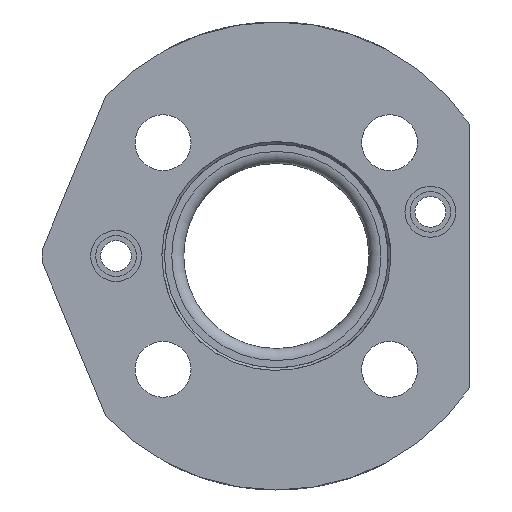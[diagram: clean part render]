
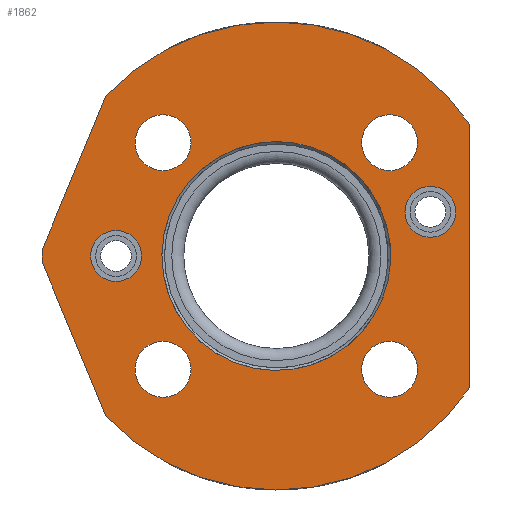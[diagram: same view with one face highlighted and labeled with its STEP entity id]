
A CAD part, front view. The second image highlights one B-rep face of the part: STEP entity #1862.
In plain terms, the highlighted planar face has unit normal (0, -1, 0).
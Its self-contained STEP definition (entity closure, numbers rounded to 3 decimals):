
#14 = ORIENTED_EDGE ( 'NONE', *, *, #1808, .F. ) ;
#16 = DIRECTION ( 'NONE',  ( 0., 0., 1. ) ) ;
#70 = FACE_BOUND ( 'NONE', #2691, .T. ) ;
#100 = CARTESIAN_POINT ( 'NONE',  ( 19., 0., 12.961 ) ) ;
#108 = CARTESIAN_POINT ( 'NONE',  ( -15.75, 0., 0. ) ) ;
#109 = EDGE_LOOP ( 'NONE', ( #228, #491, #1996, #2164, #1612, #2646 ) ) ;
#121 = ORIENTED_EDGE ( 'NONE', *, *, #2681, .T. ) ;
#122 = DIRECTION ( 'NONE',  ( 0., 0., 1. ) ) ;
#135 = FACE_BOUND ( 'NONE', #2853, .T. ) ;
#153 = VERTEX_POINT ( 'NONE', #2602 ) ;
#156 = EDGE_CURVE ( 'NONE', #2131, #841, #2891, .T. ) ;
#161 = CARTESIAN_POINT ( 'NONE',  ( 0., 0., 0. ) ) ;
#228 = ORIENTED_EDGE ( 'NONE', *, *, #2190, .T. ) ;
#232 = DIRECTION ( 'NONE',  ( 0.383, 0., -0.924 ) ) ;
#327 = DIRECTION ( 'NONE',  ( 0., 0., -1. ) ) ;
#367 = CIRCLE ( 'NONE', #1985, 2.5 ) ;
#372 = AXIS2_PLACEMENT_3D ( 'NONE', #2538, #779, #1695 ) ;
#426 = PLANE ( 'NONE',  #1298 ) ;
#433 = DIRECTION ( 'NONE',  ( 0., 1., 0. ) ) ;
#483 = CARTESIAN_POINT ( 'NONE',  ( 0., 0., 11.25 ) ) ;
#486 = VERTEX_POINT ( 'NONE', #522 ) ;
#491 = ORIENTED_EDGE ( 'NONE', *, *, #2088, .F. ) ;
#512 = EDGE_CURVE ( 'NONE', #1324, #1324, #518, .T. ) ;
#518 = CIRCLE ( 'NONE', #1163, 2.75 ) ;
#522 = CARTESIAN_POINT ( 'NONE',  ( 19., 0., -12.961 ) ) ;
#556 = CARTESIAN_POINT ( 'NONE',  ( 0., 0., 0. ) ) ;
#558 = DIRECTION ( 'NONE',  ( 0., 0., -1. ) ) ;
#622 = DIRECTION ( 'NONE',  ( 0., -1., 0. ) ) ;
#761 = CARTESIAN_POINT ( 'NONE',  ( -16.737, 0., 15.776 ) ) ;
#779 = DIRECTION ( 'NONE',  ( 0., -1., 0. ) ) ;
#799 = EDGE_CURVE ( 'NONE', #153, #153, #1033, .T. ) ;
#813 = CARTESIAN_POINT ( 'NONE',  ( 11.137, 0., 11.137 ) ) ;
#841 = VERTEX_POINT ( 'NONE', #761 ) ;
#853 = DIRECTION ( 'NONE',  ( 0., 0., 1. ) ) ;
#874 = DIRECTION ( 'NONE',  ( 0., 1., 0. ) ) ;
#880 = CIRCLE ( 'NONE', #1481, 2.75 ) ;
#881 = LINE ( 'NONE', #2878, #1519 ) ;
#924 = VERTEX_POINT ( 'NONE', #483 ) ;
#943 = EDGE_CURVE ( 'NONE', #1976, #2406, #2324, .T. ) ;
#1031 = FACE_OUTER_BOUND ( 'NONE', #109, .T. ) ;
#1033 = CIRCLE ( 'NONE', #1995, 2.75 ) ;
#1058 = CARTESIAN_POINT ( 'NONE',  ( 0., 0., 0. ) ) ;
#1115 = LINE ( 'NONE', #2710, #1587 ) ;
#1163 = AXIS2_PLACEMENT_3D ( 'NONE', #813, #2796, #122 ) ;
#1184 = ORIENTED_EDGE ( 'NONE', *, *, #512, .T. ) ;
#1189 = CARTESIAN_POINT ( 'NONE',  ( -16.737, 0., -15.776 ) ) ;
#1213 = CARTESIAN_POINT ( 'NONE',  ( 0., 0., 0. ) ) ;
#1248 = VERTEX_POINT ( 'NONE', #2112 ) ;
#1260 = FACE_BOUND ( 'NONE', #1287, .T. ) ;
#1287 = EDGE_LOOP ( 'NONE', ( #1570 ) ) ;
#1298 = AXIS2_PLACEMENT_3D ( 'NONE', #161, #2139, #853 ) ;
#1309 = EDGE_CURVE ( 'NONE', #2406, #2883, #1115, .T. ) ;
#1324 = VERTEX_POINT ( 'NONE', #2557 ) ;
#1340 = CARTESIAN_POINT ( 'NONE',  ( 11.137, 0., -8.387 ) ) ;
#1358 = CARTESIAN_POINT ( 'NONE',  ( 15.14, 0., 1.841 ) ) ;
#1386 = CIRCLE ( 'NONE', #1714, 23. ) ;
#1403 = DIRECTION ( 'NONE',  ( 0., -1., 0. ) ) ;
#1416 = CARTESIAN_POINT ( 'NONE',  ( 19., 0., -12.961 ) ) ;
#1420 = EDGE_LOOP ( 'NONE', ( #1184 ) ) ;
#1430 = DIRECTION ( 'NONE',  ( 0., 0., -1. ) ) ;
#1481 = AXIS2_PLACEMENT_3D ( 'NONE', #2024, #433, #16 ) ;
#1496 = DIRECTION ( 'NONE',  ( 0., -1., 0. ) ) ;
#1508 = DIRECTION ( 'NONE',  ( 0., 0., -1. ) ) ;
#1511 = DIRECTION ( 'NONE',  ( 0., 0., -1. ) ) ;
#1516 = FACE_BOUND ( 'NONE', #1558, .T. ) ;
#1519 = VECTOR ( 'NONE', #1764, 1000. ) ;
#1520 = EDGE_CURVE ( 'NONE', #1248, #1248, #1944, .T. ) ;
#1549 = CARTESIAN_POINT ( 'NONE',  ( -22.99, 0., 0.68 ) ) ;
#1558 = EDGE_LOOP ( 'NONE', ( #1903 ) ) ;
#1563 = VERTEX_POINT ( 'NONE', #1358 ) ;
#1570 = ORIENTED_EDGE ( 'NONE', *, *, #1789, .T. ) ;
#1587 = VECTOR ( 'NONE', #232, 1000. ) ;
#1612 = ORIENTED_EDGE ( 'NONE', *, *, #943, .T. ) ;
#1624 = ORIENTED_EDGE ( 'NONE', *, *, #799, .T. ) ;
#1631 = DIRECTION ( 'NONE',  ( 0., 1., 0. ) ) ;
#1640 = FACE_BOUND ( 'NONE', #1420, .T. ) ;
#1650 = VERTEX_POINT ( 'NONE', #2568 ) ;
#1695 = DIRECTION ( 'NONE',  ( 0., 0., -1. ) ) ;
#1696 = DIRECTION ( 'NONE',  ( 0., 1., 0. ) ) ;
#1710 = FACE_BOUND ( 'NONE', #2652, .T. ) ;
#1714 = AXIS2_PLACEMENT_3D ( 'NONE', #556, #1403, #1430 ) ;
#1764 = DIRECTION ( 'NONE',  ( -0.383, 0., -0.924 ) ) ;
#1789 = EDGE_CURVE ( 'NONE', #924, #924, #2599, .T. ) ;
#1808 = EDGE_CURVE ( 'NONE', #1563, #1563, #367, .T. ) ;
#1854 = CARTESIAN_POINT ( 'NONE',  ( 15.14, 0., 4.341 ) ) ;
#1862 = ADVANCED_FACE ( 'NONE', ( #2751, #135, #1031, #70, #1640, #1516, #1710, #1260 ), #426, .F. ) ;
#1903 = ORIENTED_EDGE ( 'NONE', *, *, #2738, .T. ) ;
#1904 = DIRECTION ( 'NONE',  ( 0., 0., 1. ) ) ;
#1938 = VECTOR ( 'NONE', #327, 1000. ) ;
#1944 = CIRCLE ( 'NONE', #2313, 2.5 ) ;
#1964 = EDGE_CURVE ( 'NONE', #841, #1976, #881, .T. ) ;
#1976 = VERTEX_POINT ( 'NONE', #1549 ) ;
#1983 = AXIS2_PLACEMENT_3D ( 'NONE', #2228, #874, #2663 ) ;
#1985 = AXIS2_PLACEMENT_3D ( 'NONE', #1854, #2329, #558 ) ;
#1995 = AXIS2_PLACEMENT_3D ( 'NONE', #2758, #1631, #1904 ) ;
#1996 = ORIENTED_EDGE ( 'NONE', *, *, #156, .T. ) ;
#2024 = CARTESIAN_POINT ( 'NONE',  ( 11.137, 0., -11.137 ) ) ;
#2088 = EDGE_CURVE ( 'NONE', #2131, #486, #2311, .T. ) ;
#2112 = CARTESIAN_POINT ( 'NONE',  ( -15.75, 0., -2.5 ) ) ;
#2131 = VERTEX_POINT ( 'NONE', #100 ) ;
#2139 = DIRECTION ( 'NONE',  ( 0., 1., 0. ) ) ;
#2164 = ORIENTED_EDGE ( 'NONE', *, *, #1964, .T. ) ;
#2190 = EDGE_CURVE ( 'NONE', #2883, #486, #1386, .T. ) ;
#2228 = CARTESIAN_POINT ( 'NONE',  ( -11.137, 0., 11.137 ) ) ;
#2267 = EDGE_LOOP ( 'NONE', ( #2672 ) ) ;
#2311 = LINE ( 'NONE', #1416, #1938 ) ;
#2313 = AXIS2_PLACEMENT_3D ( 'NONE', #108, #1496, #1508 ) ;
#2324 = CIRCLE ( 'NONE', #2704, 23. ) ;
#2329 = DIRECTION ( 'NONE',  ( 0., -1., 0. ) ) ;
#2406 = VERTEX_POINT ( 'NONE', #2546 ) ;
#2460 = VERTEX_POINT ( 'NONE', #1340 ) ;
#2502 = CIRCLE ( 'NONE', #1983, 2.75 ) ;
#2538 = CARTESIAN_POINT ( 'NONE',  ( 0., 0., 0. ) ) ;
#2546 = CARTESIAN_POINT ( 'NONE',  ( -22.99, 0., -0.68 ) ) ;
#2557 = CARTESIAN_POINT ( 'NONE',  ( 11.137, 0., 13.887 ) ) ;
#2568 = CARTESIAN_POINT ( 'NONE',  ( -11.137, 0., 13.887 ) ) ;
#2599 = CIRCLE ( 'NONE', #2886, 11.25 ) ;
#2602 = CARTESIAN_POINT ( 'NONE',  ( -11.137, 0., -8.387 ) ) ;
#2646 = ORIENTED_EDGE ( 'NONE', *, *, #1309, .T. ) ;
#2652 = EDGE_LOOP ( 'NONE', ( #1624 ) ) ;
#2663 = DIRECTION ( 'NONE',  ( 0., 0., 1. ) ) ;
#2672 = ORIENTED_EDGE ( 'NONE', *, *, #1520, .F. ) ;
#2681 = EDGE_CURVE ( 'NONE', #2460, #2460, #880, .T. ) ;
#2691 = EDGE_LOOP ( 'NONE', ( #121 ) ) ;
#2704 = AXIS2_PLACEMENT_3D ( 'NONE', #1058, #622, #1511 ) ;
#2710 = CARTESIAN_POINT ( 'NONE',  ( -22.99, 0., -0.68 ) ) ;
#2738 = EDGE_CURVE ( 'NONE', #1650, #1650, #2502, .T. ) ;
#2751 = FACE_BOUND ( 'NONE', #2267, .T. ) ;
#2758 = CARTESIAN_POINT ( 'NONE',  ( -11.137, 0., -11.137 ) ) ;
#2776 = DIRECTION ( 'NONE',  ( 0., 0., 1. ) ) ;
#2796 = DIRECTION ( 'NONE',  ( 0., 1., 0. ) ) ;
#2853 = EDGE_LOOP ( 'NONE', ( #14 ) ) ;
#2878 = CARTESIAN_POINT ( 'NONE',  ( -22.99, 0., 0.68 ) ) ;
#2883 = VERTEX_POINT ( 'NONE', #1189 ) ;
#2886 = AXIS2_PLACEMENT_3D ( 'NONE', #1213, #1696, #2776 ) ;
#2891 = CIRCLE ( 'NONE', #372, 23. ) ;
